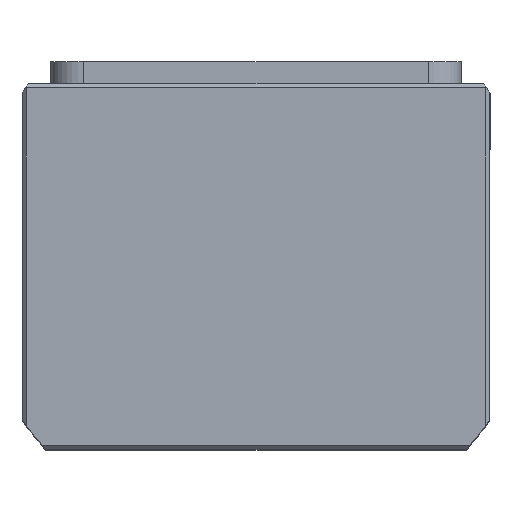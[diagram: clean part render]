
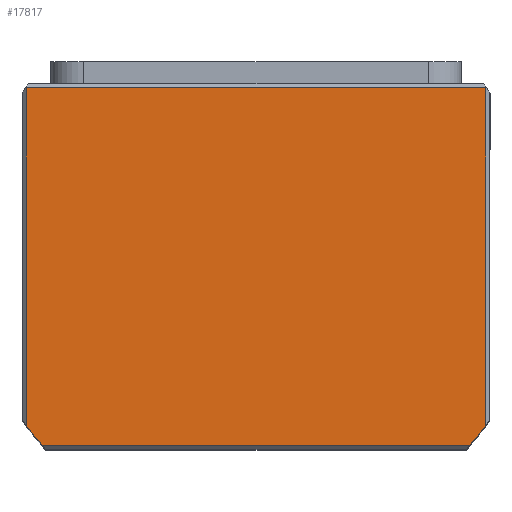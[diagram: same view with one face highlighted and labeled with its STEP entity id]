
A CAD part, top view. The second image highlights one B-rep face of the part: STEP entity #17817.
In plain terms, the highlighted planar face has unit normal (0, 0, 1) as drawn and (0, 0, -1) by its records, which use the part's own axes.
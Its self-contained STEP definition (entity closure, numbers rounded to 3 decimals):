
#75 = LINE ( 'NONE', #8064, #9193 ) ;
#547 = ORIENTED_EDGE ( 'NONE', *, *, #14751, .T. ) ;
#1664 = CARTESIAN_POINT ( 'NONE',  ( 0., 0., 0. ) ) ;
#1665 = EDGE_CURVE ( 'NONE', #11040, #23101, #16638, .T. ) ;
#2812 = ORIENTED_EDGE ( 'NONE', *, *, #18597, .T. ) ;
#3026 = DIRECTION ( 'NONE',  ( 0., 0., 1. ) ) ;
#3510 = DIRECTION ( 'NONE',  ( 0., 0., 1. ) ) ;
#3564 = CARTESIAN_POINT ( 'NONE',  ( 56., 0., 0. ) ) ;
#4240 = ORIENTED_EDGE ( 'NONE', *, *, #8390, .T. ) ;
#4769 = CARTESIAN_POINT ( 'NONE',  ( -56., -43.5, 0. ) ) ;
#5196 = VECTOR ( 'NONE', #15483, 1000. ) ;
#5501 = CARTESIAN_POINT ( 'NONE',  ( 52.098, 43.5, 0. ) ) ;
#6043 = VERTEX_POINT ( 'NONE', #4769 ) ;
#7209 = DIRECTION ( 'NONE',  ( 0., -1., 0. ) ) ;
#7392 = CARTESIAN_POINT ( 'NONE',  ( 56., -43.5, 0. ) ) ;
#7992 = VECTOR ( 'NONE', #7209, 1000. ) ;
#8064 = CARTESIAN_POINT ( 'NONE',  ( 0., 43.5, 0. ) ) ;
#8390 = EDGE_CURVE ( 'NONE', #13296, #6043, #23596, .T. ) ;
#9193 = VECTOR ( 'NONE', #9937, 1000. ) ;
#9792 = CARTESIAN_POINT ( 'NONE',  ( -56., 0., 0. ) ) ;
#9811 = CARTESIAN_POINT ( 'NONE',  ( 56., 38.661, 0. ) ) ;
#9937 = DIRECTION ( 'NONE',  ( 1., 0., 0. ) ) ;
#11040 = VERTEX_POINT ( 'NONE', #12969 ) ;
#11454 = FACE_OUTER_BOUND ( 'NONE', #20194, .T. ) ;
#11774 = DIRECTION ( 'NONE',  ( 1., 0., 0. ) ) ;
#12638 = PLANE ( 'NONE',  #13633 ) ;
#12870 = CARTESIAN_POINT ( 'NONE',  ( 0., -2.5, 0. ) ) ;
#12969 = CARTESIAN_POINT ( 'NONE',  ( -52.098, 43.5, 0. ) ) ;
#13138 = VECTOR ( 'NONE', #15277, 1000. ) ;
#13149 = DIRECTION ( 'NONE',  ( 0., 0., 1. ) ) ;
#13296 = VERTEX_POINT ( 'NONE', #7392 ) ;
#13633 = AXIS2_PLACEMENT_3D ( 'NONE', #1664, #3510, #16356 ) ;
#14016 = CARTESIAN_POINT ( 'NONE',  ( 0., -2.5, 0. ) ) ;
#14296 = ORIENTED_EDGE ( 'NONE', *, *, #22125, .F. ) ;
#14751 = EDGE_CURVE ( 'NONE', #11040, #17899, #75, .T. ) ;
#15277 = DIRECTION ( 'NONE',  ( 0., 1., 0. ) ) ;
#15483 = DIRECTION ( 'NONE',  ( -1., 0., 0. ) ) ;
#15680 = CIRCLE ( 'NONE', #19078, 69.5 ) ;
#15879 = DIRECTION ( 'NONE',  ( 1., 0., 0. ) ) ;
#16356 = DIRECTION ( 'NONE',  ( 1., 0., 0. ) ) ;
#16638 = CIRCLE ( 'NONE', #17582, 69.5 ) ;
#16964 = ORIENTED_EDGE ( 'NONE', *, *, #1665, .F. ) ;
#17582 = AXIS2_PLACEMENT_3D ( 'NONE', #12870, #13149, #11774 ) ;
#17817 = ADVANCED_FACE ( 'NONE', ( #11454 ), #12638, .F. ) ;
#17899 = VERTEX_POINT ( 'NONE', #5501 ) ;
#18016 = LINE ( 'NONE', #9792, #13138 ) ;
#18221 = EDGE_CURVE ( 'NONE', #23189, #13296, #20113, .T. ) ;
#18597 = EDGE_CURVE ( 'NONE', #6043, #23101, #18016, .T. ) ;
#18929 = CARTESIAN_POINT ( 'NONE',  ( -56., 38.661, 0. ) ) ;
#19078 = AXIS2_PLACEMENT_3D ( 'NONE', #14016, #3026, #15879 ) ;
#20113 = LINE ( 'NONE', #3564, #7992 ) ;
#20194 = EDGE_LOOP ( 'NONE', ( #14296, #23771, #4240, #2812, #16964, #547 ) ) ;
#21034 = CARTESIAN_POINT ( 'NONE',  ( 0., -43.5, 0. ) ) ;
#22125 = EDGE_CURVE ( 'NONE', #23189, #17899, #15680, .T. ) ;
#23101 = VERTEX_POINT ( 'NONE', #18929 ) ;
#23189 = VERTEX_POINT ( 'NONE', #9811 ) ;
#23596 = LINE ( 'NONE', #21034, #5196 ) ;
#23771 = ORIENTED_EDGE ( 'NONE', *, *, #18221, .T. ) ;
